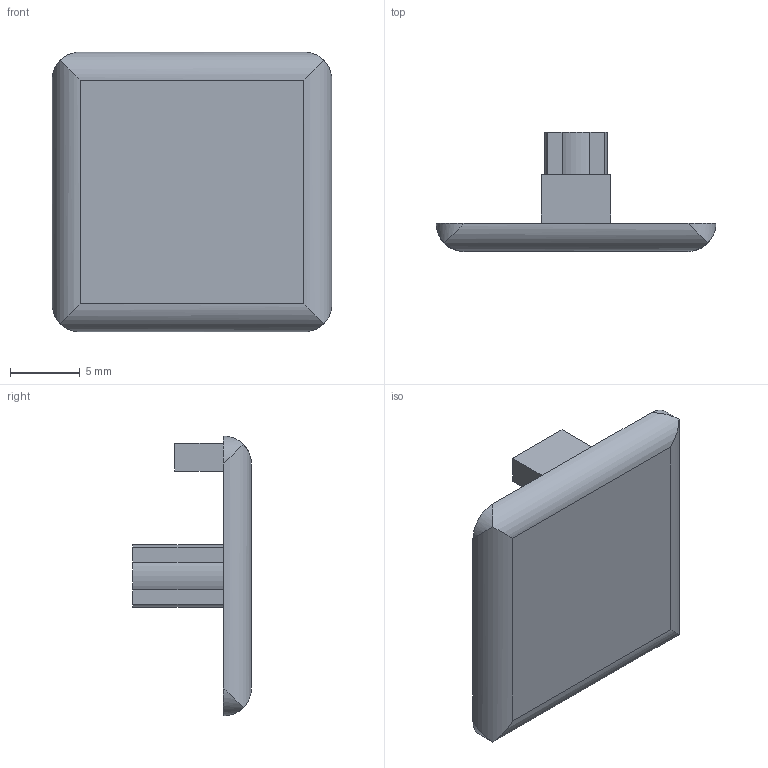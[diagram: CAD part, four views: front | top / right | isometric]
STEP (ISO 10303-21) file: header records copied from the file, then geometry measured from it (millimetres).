
FILE_DESCRIPTION(('FreeCAD Model'),'2;1');
FILE_NAME('Open CASCADE Shape Model','2021-05-04T11:18:14',('Author'),( ''),'Open CASCADE STEP processor 7.5','FreeCAD','Unknown');
FILE_SCHEMA(('AUTOMOTIVE_DESIGN { 1 0 10303 214 1 1 1 1 }'));
Length unit declared in the file: millimetre
Products named in the file (1): FATH_covcap20x20
Bounding box: 20 x 8.5 x 20 mm (x, y, z)
Volume: 853.8 mm3; surface area: 1037.4 mm2
Topology: 1 solids, 1 shells, 29 faces, 75 edges, 50 vertices
Faces by surface type: plane 16, cylinder 13
Entity records: 2408 total; most frequent: CARTESIAN_POINT 917, DIRECTION 263, LINE 161, VECTOR 161, ORIENTED_EDGE 150, PCURVE 150, DEFINITIONAL_REPRESENTATION 150, EDGE_CURVE 75
